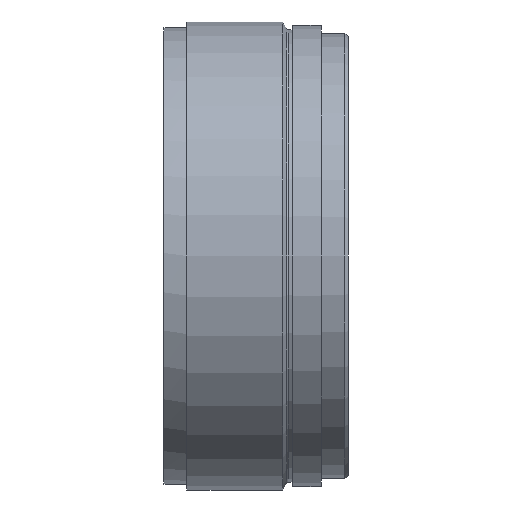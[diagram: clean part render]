
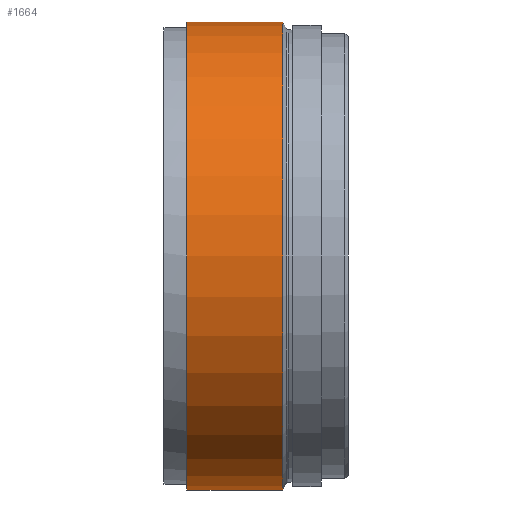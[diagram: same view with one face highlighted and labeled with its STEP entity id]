
A CAD part, front view. The second image highlights one B-rep face of the part: STEP entity #1664.
In plain terms, the highlighted cylindrical face has radius 102.5 mm (diameter 205 mm), a full revolution.
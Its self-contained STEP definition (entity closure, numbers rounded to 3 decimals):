
#111 = AXIS2_PLACEMENT_3D ( 'NONE', #669, #1161, #487 ) ;
#123 = ORIENTED_EDGE ( 'NONE', *, *, #1750, .T. ) ;
#153 = FACE_OUTER_BOUND ( 'NONE', #459, .T. ) ;
#156 = CARTESIAN_POINT ( 'NONE',  ( 10., 0., 102.5 ) ) ;
#186 = CARTESIAN_POINT ( 'NONE',  ( 51.979, 0., 0. ) ) ;
#196 = DIRECTION ( 'NONE',  ( 0., 0., 1. ) ) ;
#459 = EDGE_LOOP ( 'NONE', ( #642 ) ) ;
#487 = DIRECTION ( 'NONE',  ( 0., 0., 1. ) ) ;
#640 = EDGE_LOOP ( 'NONE', ( #123 ) ) ;
#642 = ORIENTED_EDGE ( 'NONE', *, *, #1680, .F. ) ;
#669 = CARTESIAN_POINT ( 'NONE',  ( 10., 0., 0. ) ) ;
#848 = CARTESIAN_POINT ( 'NONE',  ( 51.979, 0., 102.5 ) ) ;
#857 = DIRECTION ( 'NONE',  ( 0., 0., 1. ) ) ;
#871 = DIRECTION ( 'NONE',  ( -1., 0., 0. ) ) ;
#1002 = VERTEX_POINT ( 'NONE', #156 ) ;
#1016 = VERTEX_POINT ( 'NONE', #848 ) ;
#1161 = DIRECTION ( 'NONE',  ( -1., 0., 0. ) ) ;
#1250 = AXIS2_PLACEMENT_3D ( 'NONE', #186, #871, #196 ) ;
#1324 = CIRCLE ( 'NONE', #1250, 102.5 ) ;
#1512 = CYLINDRICAL_SURFACE ( 'NONE', #1638, 102.5 ) ;
#1534 = CARTESIAN_POINT ( 'NONE',  ( -0.17, 0., 0. ) ) ;
#1638 = AXIS2_PLACEMENT_3D ( 'NONE', #1534, #1696, #857 ) ;
#1664 = ADVANCED_FACE ( 'NONE', ( #153, #2018 ), #1512, .T. ) ;
#1680 = EDGE_CURVE ( 'NONE', #1002, #1002, #2041, .T. ) ;
#1696 = DIRECTION ( 'NONE',  ( -1., 0., 0. ) ) ;
#1750 = EDGE_CURVE ( 'NONE', #1016, #1016, #1324, .T. ) ;
#2018 = FACE_OUTER_BOUND ( 'NONE', #640, .T. ) ;
#2041 = CIRCLE ( 'NONE', #111, 102.5 ) ;
